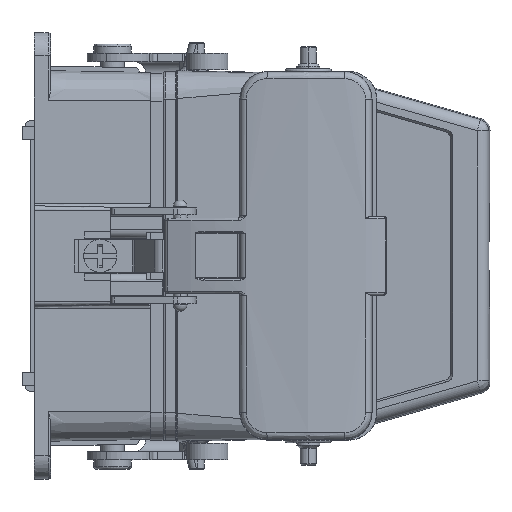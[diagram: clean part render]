
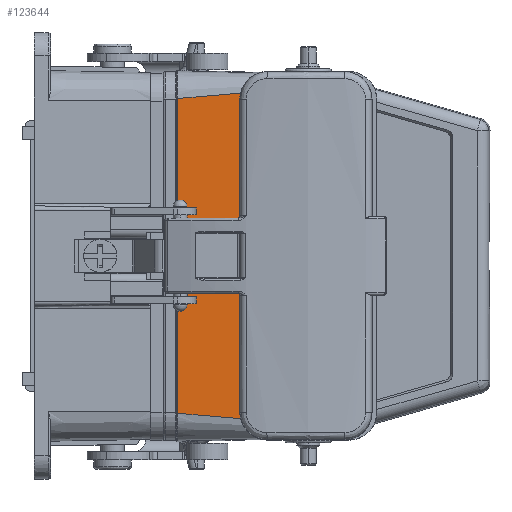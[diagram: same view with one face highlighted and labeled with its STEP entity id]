
A CAD part, top view. The second image highlights one B-rep face of the part: STEP entity #123644.
In plain terms, the highlighted planar face has unit normal (0, 0, 1).
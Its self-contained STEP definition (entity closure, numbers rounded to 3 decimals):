
#1550 = LINE ( 'NONE', #73563, #126191 ) ;
#3873 = CARTESIAN_POINT ( 'NONE',  ( -36.039, 25.258, 14.75 ) ) ;
#3958 = CARTESIAN_POINT ( 'NONE',  ( 35.322, 16.939, 14.75 ) ) ;
#5016 = FACE_OUTER_BOUND ( 'NONE', #108929, .T. ) ;
#5225 = DIRECTION ( 'NONE',  ( -1., 0., 0. ) ) ;
#6061 = CARTESIAN_POINT ( 'NONE',  ( 36.039, 25.258, 14.75 ) ) ;
#13761 = CARTESIAN_POINT ( 'NONE',  ( 36.039, 25.258, 14.75 ) ) ;
#14346 = CARTESIAN_POINT ( 'NONE',  ( -33.887, 0.3, 14.75 ) ) ;
#15221 = VECTOR ( 'NONE', #5225, 1000. ) ;
#24847 = CARTESIAN_POINT ( 'NONE',  ( -34.605, 8.619, 14.75 ) ) ;
#25524 = CARTESIAN_POINT ( 'NONE',  ( -35.322, 16.939, 14.75 ) ) ;
#33820 = CARTESIAN_POINT ( 'NONE',  ( -36.039, 25.258, 14.75 ) ) ;
#36466 = ORIENTED_EDGE ( 'NONE', *, *, #58085, .T. ) ;
#47386 = ORIENTED_EDGE ( 'NONE', *, *, #71282, .F. ) ;
#56390 = CARTESIAN_POINT ( 'NONE',  ( 33.887, 0.3, 14.75 ) ) ;
#58085 = EDGE_CURVE ( 'NONE', #136203, #79008, #1550, .T. ) ;
#65395 = LINE ( 'NONE', #86990, #15221 ) ;
#66179 = CARTESIAN_POINT ( 'NONE',  ( 34.605, 8.619, 14.75 ) ) ;
#71282 = EDGE_CURVE ( 'NONE', #91949, #79008, #113577, .T. ) ;
#73563 = CARTESIAN_POINT ( 'NONE',  ( -40., 0.3, 14.75 ) ) ;
#79008 = VERTEX_POINT ( 'NONE', #102382 ) ;
#79759 = DIRECTION ( 'NONE',  ( 0., 0., 1. ) ) ;
#81792 = AXIS2_PLACEMENT_3D ( 'NONE', #132772, #79759, #133456 ) ;
#82794 = ORIENTED_EDGE ( 'NONE', *, *, #109360, .T. ) ;
#86990 = CARTESIAN_POINT ( 'NONE',  ( -36.311, 25.258, 14.75 ) ) ;
#90219 = PLANE ( 'NONE',  #81792 ) ;
#91949 = VERTEX_POINT ( 'NONE', #6061 ) ;
#102382 = CARTESIAN_POINT ( 'NONE',  ( 33.887, 0.3, 14.75 ) ) ;
#107306 = VERTEX_POINT ( 'NONE', #33820 ) ;
#107940 = CARTESIAN_POINT ( 'NONE',  ( -33.887, 0.3, 14.75 ) ) ;
#108929 = EDGE_LOOP ( 'NONE', ( #130572, #36466, #47386, #82794 ) ) ;
#109360 = EDGE_CURVE ( 'NONE', #91949, #107306, #65395, .T. ) ;
#113577 = B_SPLINE_CURVE_WITH_KNOTS ( 'NONE', 3,
 ( #13761, #3958, #66179, #56390 ),
 .UNSPECIFIED., .F., .F.,
 ( 4, 4 ),
 ( 0., 1. ),
 .UNSPECIFIED. ) ;
#113840 = EDGE_CURVE ( 'NONE', #136203, #107306, #123372, .T. ) ;
#123372 = B_SPLINE_CURVE_WITH_KNOTS ( 'NONE', 3,
 ( #14346, #24847, #25524, #3873 ),
 .UNSPECIFIED., .F., .F.,
 ( 4, 4 ),
 ( 0., 1. ),
 .UNSPECIFIED. ) ;
#123644 = ADVANCED_FACE ( 'NONE', ( #5016 ), #90219, .T. ) ;
#126191 = VECTOR ( 'NONE', #129341, 1000. ) ;
#129341 = DIRECTION ( 'NONE',  ( 1., 0., 0. ) ) ;
#130572 = ORIENTED_EDGE ( 'NONE', *, *, #113840, .F. ) ;
#132772 = CARTESIAN_POINT ( 'NONE',  ( -40., 0., 14.75 ) ) ;
#133456 = DIRECTION ( 'NONE',  ( 1., 0., 0. ) ) ;
#136203 = VERTEX_POINT ( 'NONE', #107940 ) ;
